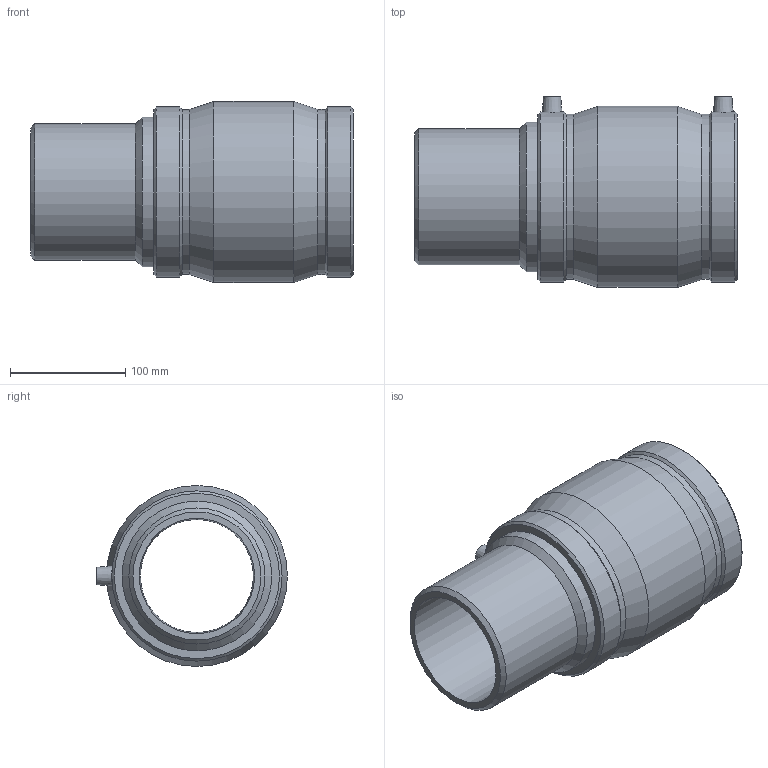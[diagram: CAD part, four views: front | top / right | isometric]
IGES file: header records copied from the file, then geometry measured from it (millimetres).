
Global section: file name: 495704125100.ipt; native system: Autodesk Inventor 2015; preprocessor: unknown; author: KIM; date: 20180502.161907; units: millimetre
Bounding box: 280 x 165.5 x 157 mm (x, y, z)
Volume: 1778824.9 mm3; surface area: 241702.2 mm2
Topology: 1 solids, 2 shells, 43 faces, 92 edges, 60 vertices
Faces by surface type: plane 13, cylinder 11, cone 10, revolution 9
Full cylindrical faces by diameter (mm): 4 x2, 118 x1, 125 x2, 129.8 x1, 143.153 x2, 147.58 x2, 157 x1
